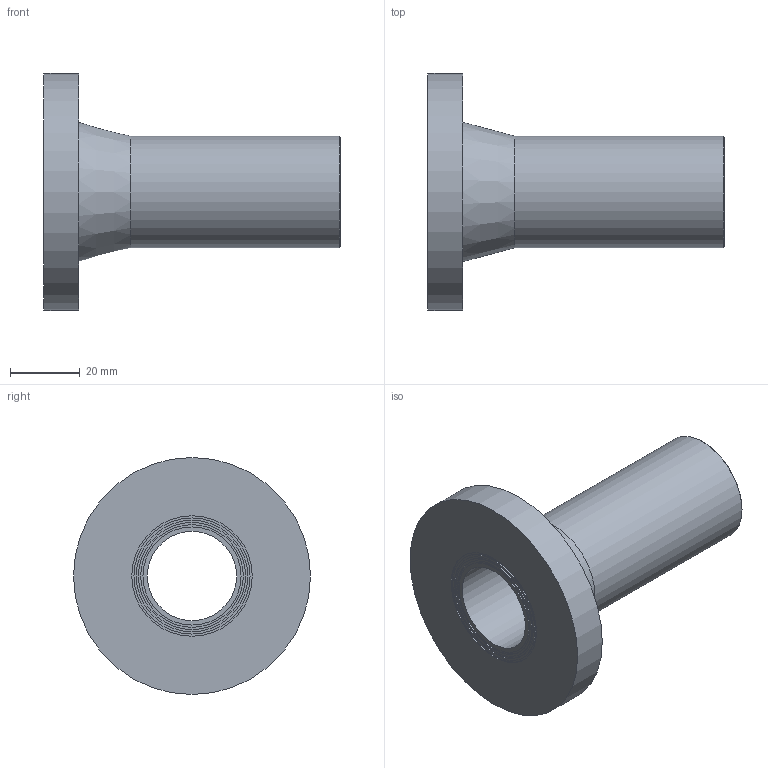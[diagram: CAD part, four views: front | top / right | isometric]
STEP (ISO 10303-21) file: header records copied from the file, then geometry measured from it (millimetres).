
FILE_DESCRIPTION(/* description */ ('Stub Flange 32'),/* implementation_level */ '2;1');
FILE_NAME(/* name */ 'C:\Dropbox\KIMPROJECTS-Inventor\99-16-3568-Processing\ElectroFusion Fittings\31.03.19\490207\490207032.ipt.stp',/* time_stamp */ '2019-03-31T18:57:38+03:00',/* author */ ('Кирилл'),/* organization */ (''),/* preprocessor_version */ 'ST-DEVELOPER v15.6',/* originating_system */ 'Autodesk Inventor 2015',/* authorisation */ '');
FILE_SCHEMA (('AUTOMOTIVE_DESIGN { 1 0 10303 214 3 1 1 }'));
Length unit declared in the file: millimetre
Products named in the file (1): 490207032
Bounding box: 85 x 68 x 68 mm (x, y, z)
Volume: 56085.9 mm3; surface area: 22711.7 mm2
Topology: 1 solids, 1 shells, 20 faces, 31 edges, 20 vertices
Faces by surface type: cylinder 9, plane 9, cone 2
Full cylindrical faces by diameter (mm): 25.6 x1, 28.16 x1, 29.44 x1, 30.72 x1, 32 x2, 33.28 x1, 34.56 x1, 68 x1
Entity records: 432 total; most frequent: DIRECTION 82, CARTESIAN_POINT 61, AXIS2_PLACEMENT_3D 41, EDGE_LOOP 40, ORIENTED_EDGE 40, FACE_BOUND 20, FACE_OUTER_BOUND 20, CIRCLE 20
